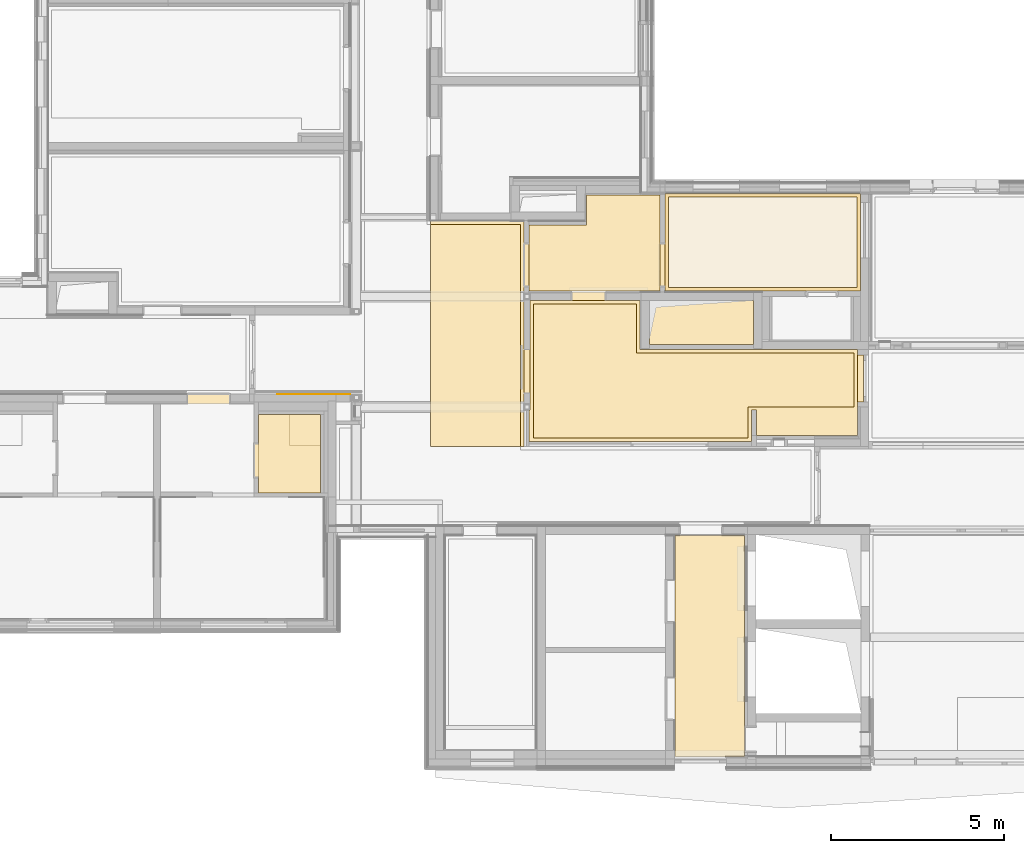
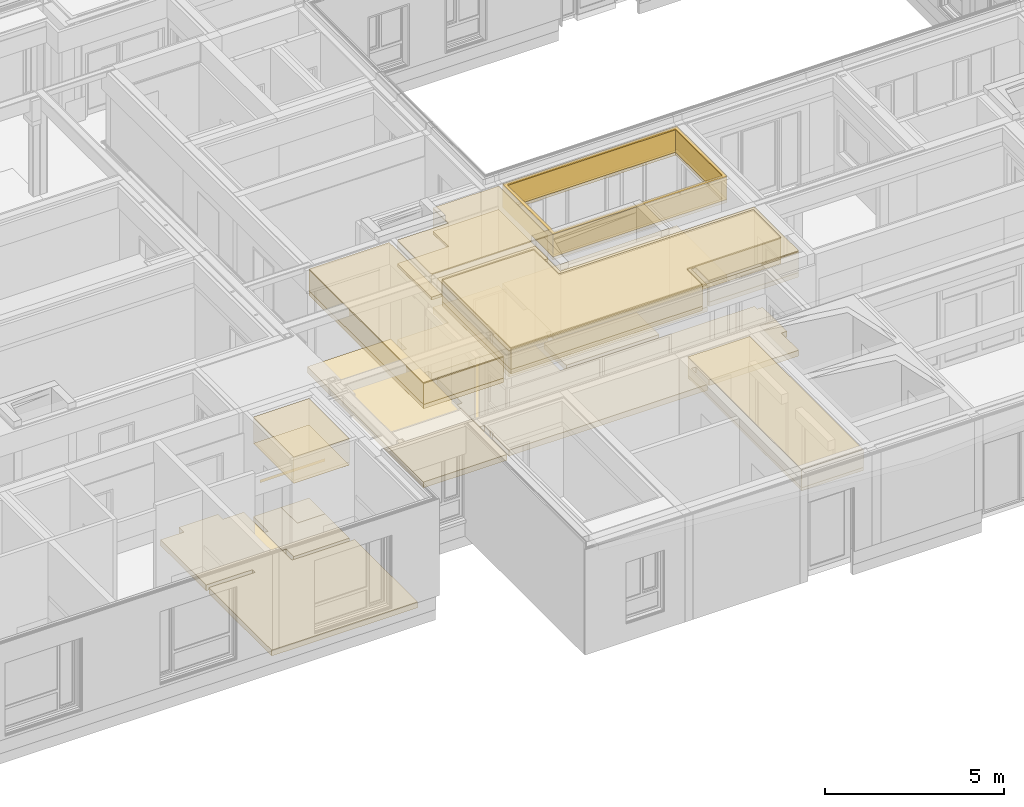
# One storey, part 166 of 207: 35 coverings.
"""IFC4 building model written with IfcOpenShell, lengths in metres."""

from ifc_helpers import new_model, entity, si_unit, converted_unit, derived_unit, frame, frame_2d, origin, origin_with_axes, place, context, subcontext, project, spatial, polyline, rectangle, outline, extrude, material, layer, layer_set, layer_usage, element, save


model = new_model("IFC4")

# Units and contexts
model_context = context("Model", 3, precision=1e-05, world=origin())
body_context = subcontext(model_context, "Body", "Model", "MODEL_VIEW")
ifc_project = project(units=[si_unit("LENGTHUNIT", "METRE"), si_unit("AREAUNIT", "SQUARE_METRE"), si_unit("VOLUMEUNIT", "CUBIC_METRE"), si_unit("MASSUNIT", "GRAM", prefix="KILO"), converted_unit("PLANEANGLEUNIT", "DEGREE", entity("IfcPlaneAngleMeasure", 0.0174532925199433), si_unit("PLANEANGLEUNIT", "RADIAN"), dimensions=[0, 0, 0, 0, 0, 0, 0]), derived_unit("THERMALTRANSMITTANCEUNIT", [(si_unit("POWERUNIT", "WATT"), 1), (si_unit("THERMODYNAMICTEMPERATUREUNIT", "KELVIN"), -1), (si_unit("LENGTHUNIT", "METRE"), -2)]), derived_unit("VOLUMETRICFLOWRATEUNIT", [(si_unit("LENGTHUNIT", "METRE"), 3), (converted_unit("TIMEUNIT", "hour", entity("IfcTimeMeasure", 3600.0), si_unit("TIMEUNIT", "SECOND"), dimensions=[0, 0, 1, 0, 0, 0, 0]), -1), (si_unit("LENGTHUNIT", "METRE"), -1)])], contexts=[model_context])

# Site, building, storey
site_placement = place(None, origin())
site = spatial("IfcSite", under=ifc_project, at=site_placement, Name="Psychiatrie Neubau Wunstorf", CompositionType="ELEMENT")
building_placement = place(site_placement, origin())
building = spatial("IfcBuilding", under=site, at=building_placement, Name="Neubau H2 Stationsgebäude", CompositionType="ELEMENT")
storey_placement = place(building_placement, frame((0.0, 0.0, -0.2)))
storey = spatial("IfcBuildingStorey", under=building, at=storey_placement, Name="H2 Ebene 0", CompositionType="ELEMENT", Elevation=-0.2)

# Covering
ifc_material_1 = material(Name="SE")
ifc_layer_1 = layer(ifc_material_1, 0.19)
ifc_layer_set_1 = layer_set([ifc_layer_1])
ifc_layer_usage_1 = layer_usage(ifc_layer_set_1, "AXIS3", "POSITIVE", 0.0)
covering_1_placement = place(storey_placement, frame((44.2000000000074, 5.76750021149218, 0.0)))
element("IfcCovering", 1, at=covering_1_placement, inside=storey, material=ifc_layer_usage_1, Name="Estrich", PredefinedType="FLOORING", context=body_context, shape_type="SweptSolid", body=[
    extrude(rectangle(XDim=1.25749947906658, YDim=3.0, at=frame_2d((1.5, -0.62874973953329), x_axis=(0.0, -1.0))), frame((0.0, 1.25749947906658, 0.0), z_axis=(0.0, 0.0, 1.0), x_axis=(1.0, 0.0, 0.0)), (0.0, 0.0, 1.0), 0.19),
])

# Space
space_1_placement = place(storey_placement, frame((44.941004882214, -6.1210003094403, 0.0)))
space_1 = spatial("IfcSpace", under=storey, at=space_1_placement, Name="WUN-H2-E00-F02", CompositionType="ELEMENT")

# Coverings
ifc_material_2 = material(Name="Installationshöhe")
ifc_layer_2 = layer(ifc_material_2, 0.614)
ifc_layer_set_2 = layer_set([ifc_layer_2])
ifc_layer_usage_2 = layer_usage(ifc_layer_set_2, "AXIS3", "POSITIVE", 0.0)
covering_2_placement = place(space_1_placement, frame((0.0, 0.0, 3.564)))
element("IfcCovering", 2, at=covering_2_placement, inside=space_1, material=ifc_layer_usage_2, Name="Gipsfaserplatten 2-lagig (BSK)", PredefinedType="CEILING", context=body_context, shape_type="SweptSolid", body=[
    extrude(rectangle(XDim=1.99900000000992, YDim=6.3710003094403, at=frame_2d((-0.999500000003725, -3.18550015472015), x_axis=(-1.0, 0.0))), frame((1.99900000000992, 0.0, 0.0), z_axis=(0.0, 0.0, -1.0), x_axis=(1.0, 0.0, 0.0)), (0.0, 0.0, 1.0), 0.614),
])
ifc_material_3 = material(Name="A1")
ifc_layer_3 = layer(ifc_material_3, 0.1)
ifc_layer_set_3 = layer_set([ifc_layer_3])
ifc_layer_usage_3 = layer_usage(ifc_layer_set_3, "AXIS3", "POSITIVE", 0.0)
covering_3_placement = place(space_1_placement, frame((0.0, 0.0, 2.95)))
element("IfcCovering", 3, at=covering_3_placement, inside=space_1, material=ifc_layer_usage_3, Name="Gipsfaserplatten 2-lagig (BSK)", PredefinedType="CEILING", context=body_context, shape_type="SweptSolid", body=[
    extrude(rectangle(XDim=1.99900000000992, YDim=6.3710003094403, at=frame_2d((-0.999500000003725, -3.18550015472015), x_axis=(-1.0, 0.0))), frame((1.99900000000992, 0.0, 0.0), z_axis=(0.0, 0.0, -1.0), x_axis=(1.0, 0.0, 0.0)), (0.0, 0.0, 1.0), 0.1),
])
ifc_material_4 = material(Name="D1")
ifc_layer_4 = layer(ifc_material_4, 0.001)
ifc_layer_set_4 = layer_set([ifc_layer_4])
ifc_layer_usage_4 = layer_usage(ifc_layer_set_4, "AXIS3", "POSITIVE", 0.0)
covering_4_placement = place(space_1_placement, frame((0.0, 0.0, 2.85)))
element("IfcCovering", 4, at=covering_4_placement, inside=space_1, material=ifc_layer_usage_4, Name="Gipsfaserplatten 2-lagig (BSK)", PredefinedType="CEILING", context=body_context, shape_type="SweptSolid", body=[
    extrude(rectangle(XDim=1.99900000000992, YDim=6.3710003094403, at=frame_2d((-0.999500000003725, -3.18550015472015), x_axis=(-1.0, 0.0))), frame((1.99900000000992, 0.0, 0.0), z_axis=(0.0, 0.0, -1.0), x_axis=(1.0, 0.0, 0.0)), (0.0, 0.0, 1.0), 0.001),
])

# Space
space_2_placement = place(storey_placement, frame((32.083, 0.549, 0.0)))
space_2 = spatial("IfcSpace", under=storey, at=space_2_placement, Name="WUN-H2-E00-F03", CompositionType="ELEMENT")

# Covering
ifc_material_5 = material(Name="97")
ifc_layer_5 = layer(ifc_material_5, 0.001)
ifc_layer_set_5 = layer_set([ifc_layer_5])
ifc_layer_usage_5 = layer_usage(ifc_layer_set_5, "AXIS3", "POSITIVE", 0.0)
covering_5_placement = place(space_2_placement, frame((1.38699999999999, 3.78174963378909, 0.8)))
element("IfcCovering", 5, at=covering_5_placement, inside=space_2, material=ifc_layer_usage_5, Name="Handlauf", PredefinedType="CLADDING", context=body_context, shape_type="SweptSolid", body=[
    extrude(rectangle(XDim=2.1, YDim=0.1, at=frame_2d((-1.05, 0.05), x_axis=(-1.0, 0.0))), frame((2.1, 0.0, 0.1), z_axis=(4.33092715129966e-15, 1.0, 0.0), x_axis=(1.0, -4.33092715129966e-15, 0.0)), (0.0, 0.0, 1.0), 0.001),
])

# Space
space_3_placement = place(storey_placement, frame((32.9175, 1.48374963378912, 0.0)))
space_3 = spatial("IfcSpace", under=storey, at=space_3_placement, Name="WUN-H2-E00-019a", CompositionType="ELEMENT")

# Coverings
ifc_material_6 = material(Name="Fl1")
ifc_layer_6 = layer(ifc_material_6, 0.2)
ifc_layer_set_6 = layer_set([ifc_layer_6])
ifc_layer_usage_6 = layer_usage(ifc_layer_set_6, "AXIS3", "POSITIVE", 0.0)
covering_6_placement = place(space_3_placement, frame((-0.125, 0.0, 0.0)))
element("IfcCovering", 6, at=covering_6_placement, inside=space_3, material=ifc_layer_usage_6, Name="Fliesen", PredefinedType="FLOORING", context=body_context, shape_type="SweptSolid", body=[
    extrude(rectangle(XDim=0.125, YDim=1.01, at=frame_2d((0.0625, 0.505), x_axis=(1.0, 0.0))), frame((0.0, 0.42499999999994, 0.0), z_axis=(0.0, 0.0, 1.0), x_axis=(1.0, 0.0, 0.0)), (0.0, 0.0, 1.0), 0.2),
    extrude(outline(polyline([(1.8, 0.0), (1.79999999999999, 1.36499999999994), (0.9, 1.36499999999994), (0.900000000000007, 2.26499999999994), (0.0, 2.26499999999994), (0.0, 0.0), (1.8, 0.0)])), frame((0.125, 0.0, 0.0), z_axis=(0.0, 0.0, 1.0), x_axis=(1.0, 0.0, 0.0)), (0.0, 0.0, 1.0), 0.2),
])
ifc_material_7 = material(Name="Fl2")
ifc_layer_7 = layer(ifc_material_7, 0.2)
ifc_layer_set_7 = layer_set([ifc_layer_7])
ifc_layer_usage_7 = layer_usage(ifc_layer_set_7, "AXIS3", "POSITIVE", 0.0)
covering_7_placement = place(space_3_placement, frame((0.9, 1.36499999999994, 0.0)))
element("IfcCovering", 7, at=covering_7_placement, inside=space_3, material=ifc_layer_usage_7, Name="Fliesen Mosaik", PredefinedType="FLOORING", context=body_context, shape_type="SweptSolid", body=[
    extrude(rectangle(XDim=0.899999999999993, YDim=0.9, at=frame_2d((0.45, 0.45), x_axis=(1.0, 0.0))), origin_with_axes(), (0.0, 0.0, 1.0), 0.2),
])
ifc_material_8 = material()
ifc_layer_8 = layer(ifc_material_8, 0.036)
ifc_layer_set_8 = layer_set([ifc_layer_8])
ifc_layer_usage_8 = layer_usage(ifc_layer_set_8, "AXIS3", "POSITIVE", 0.0)
covering_8_placement = place(space_3_placement, frame((0.0, 0.0, 3.6)))
element("IfcCovering", 8, at=covering_8_placement, inside=space_3, material=ifc_layer_usage_8, Name="Gipsfaserplatten 2-lagig (BSK)", PredefinedType="CEILING", context=body_context, shape_type="SweptSolid", body=[
    extrude(rectangle(XDim=1.8, YDim=2.26499999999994, at=frame_2d((0.9, 1.13249999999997), x_axis=(1.0, 0.0))), frame((0.0, 2.26499999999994, 0.0), z_axis=(0.0, 0.0, -1.0), x_axis=(1.0, 0.0, 0.0)), (0.0, 0.0, 1.0), 0.036),
])
ifc_material_9 = material(Name="Installationshöhe")
ifc_layer_9 = layer(ifc_material_9, 0.764)
ifc_layer_set_9 = layer_set([ifc_layer_9])
ifc_layer_usage_9 = layer_usage(ifc_layer_set_9, "AXIS3", "POSITIVE", 0.0)
covering_9_placement = place(space_3_placement, frame((0.0, 0.0, 3.564)))
element("IfcCovering", 9, at=covering_9_placement, inside=space_3, material=ifc_layer_usage_9, Name="Gipsfaserplatten 2-lagig (BSK)", PredefinedType="CEILING", context=body_context, shape_type="SweptSolid", body=[
    extrude(rectangle(XDim=1.8, YDim=2.26499999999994, at=frame_2d((0.9, 1.13249999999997), x_axis=(1.0, 0.0))), frame((0.0, 2.26499999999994, 0.0), z_axis=(0.0, 0.0, -1.0), x_axis=(1.0, 0.0, 0.0)), (0.0, 0.0, 1.0), 0.764),
])
ifc_material_10 = material(Name="B")
ifc_layer_10 = layer(ifc_material_10, 0.1)
ifc_layer_set_10 = layer_set([ifc_layer_10])
ifc_layer_usage_10 = layer_usage(ifc_layer_set_10, "AXIS3", "POSITIVE", 0.0)
covering_10_placement = place(space_3_placement, frame((0.0, 0.0, 2.8)))
element("IfcCovering", 10, at=covering_10_placement, inside=space_3, material=ifc_layer_usage_10, Name="Gipskarton, imprägniert", PredefinedType="CEILING", context=body_context, shape_type="SweptSolid", body=[
    extrude(rectangle(XDim=1.8, YDim=2.26499999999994, at=frame_2d((0.9, 1.13249999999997), x_axis=(1.0, 0.0))), frame((0.0, 2.26499999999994, 0.0), z_axis=(0.0, 0.0, -1.0), x_axis=(1.0, 0.0, 0.0)), (0.0, 0.0, 1.0), 0.1),
])
ifc_material_11 = material(Name="D1")
ifc_layer_11 = layer(ifc_material_11, 0.001)
ifc_layer_set_11 = layer_set([ifc_layer_11])
ifc_layer_usage_11 = layer_usage(ifc_layer_set_11, "AXIS3", "POSITIVE", 0.0)
covering_11_placement = place(space_3_placement, frame((0.0, 0.0, 2.7)))
element("IfcCovering", 11, at=covering_11_placement, inside=space_3, material=ifc_layer_usage_11, Name="Gipsfaserplatten 2-lagig (BSK)", PredefinedType="CEILING", context=body_context, shape_type="SweptSolid", body=[
    extrude(rectangle(XDim=1.8, YDim=2.26499999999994, at=frame_2d((0.9, 1.13249999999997), x_axis=(1.0, 0.0))), frame((0.0, 2.26499999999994, 0.0), z_axis=(0.0, 0.0, -1.0), x_axis=(1.0, 0.0, 0.0)), (0.0, 0.0, 1.0), 0.001),
])

# Space
space_4_placement = place(storey_placement, frame((37.8825, 2.81749969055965, 0.0)))
space_4 = spatial("IfcSpace", under=storey, at=space_4_placement, Name="WUN-H2-E00-F03b", CompositionType="ELEMENT")

# Coverings
ifc_material_12 = material(Name="Ku1")
ifc_layer_12 = layer(ifc_material_12, 0.2)
ifc_layer_set_12 = layer_set([ifc_layer_12])
ifc_layer_usage_12 = layer_usage(ifc_layer_set_12, "AXIS3", "POSITIVE", 0.0)
covering_12_placement = place(space_4_placement, origin())
element("IfcCovering", 12, at=covering_12_placement, inside=space_4, material=ifc_layer_usage_12, Name="PVC Bahnenware Holzoptik", PredefinedType="FLOORING", context=body_context, shape_type="SweptSolid", body=[
    extrude(outline(polyline([(2.69243497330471, 1.27116461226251e-06), (2.69243497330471, 6.50499655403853), (2.317451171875, 6.50499655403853), (2.317451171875, 6.50649655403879), (0.0, 6.50649655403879), (0.0, 0.0), (2.69243497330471, 1.27116461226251e-06)])), origin_with_axes(), (0.0, 0.0, 1.0), 0.2),
])
ifc_material_13 = material()
ifc_layer_13 = layer(ifc_material_13, 0.036)
ifc_layer_set_13 = layer_set([ifc_layer_13])
ifc_layer_usage_13 = layer_usage(ifc_layer_set_13, "AXIS3", "POSITIVE", 0.0)
covering_13_placement = place(space_4_placement, frame((0.0, 0.0, 3.6)))
element("IfcCovering", 13, at=covering_13_placement, inside=space_4, material=ifc_layer_usage_13, Name="Gipsfaserplatten 2-lagig (BSK)", PredefinedType="CEILING", context=body_context, shape_type="SweptSolid", body=[
    extrude(outline(polyline([(2.59243497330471, 0.00150000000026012), (2.59243497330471, 6.40649528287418), (0.0, 6.4064965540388), (0.0, 0.0), (2.59243497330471, 0.00150000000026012)])), frame((0.0, 6.4064965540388, 0.0), z_axis=(0.0, 0.0, -1.0), x_axis=(1.0, 0.0, 0.0)), (0.0, 0.0, 1.0), 0.036),
])
ifc_material_14 = material(Name="Installationshöhe")
ifc_layer_14 = layer(ifc_material_14, 0.714)
ifc_layer_set_14 = layer_set([ifc_layer_14])
ifc_layer_usage_14 = layer_usage(ifc_layer_set_14, "AXIS3", "POSITIVE", 0.0)
covering_14_placement = place(space_4_placement, frame((0.0, 0.0, 3.564)))
element("IfcCovering", 14, at=covering_14_placement, inside=space_4, material=ifc_layer_usage_14, Name="Gipsfaserplatten 2-lagig (BSK)", PredefinedType="CEILING", context=body_context, shape_type="SweptSolid", body=[
    extrude(outline(polyline([(2.59243497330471, 0.00150000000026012), (2.59243497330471, 6.40649528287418), (0.0, 6.4064965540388), (0.0, 0.0), (2.59243497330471, 0.00150000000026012)])), frame((0.0, 6.4064965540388, 0.0), z_axis=(0.0, 0.0, -1.0), x_axis=(1.0, 0.0, 0.0)), (0.0, 0.0, 1.0), 0.714),
])
ifc_material_15 = material(Name="Aa")
ifc_layer_15 = layer(ifc_material_15, 0.15)
ifc_layer_set_15 = layer_set([ifc_layer_15])
ifc_layer_usage_15 = layer_usage(ifc_layer_set_15, "AXIS3", "POSITIVE", 0.0)
covering_15_placement = place(space_4_placement, frame((0.0, 0.0, 2.85)))
element("IfcCovering", 15, at=covering_15_placement, inside=space_4, material=ifc_layer_usage_15, Name="Gipsfaserplatten 2-lagig (BSK)", PredefinedType="CEILING", context=body_context, shape_type="SweptSolid", body=[
    extrude(outline(polyline([(2.59243497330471, 0.00150000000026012), (2.59243497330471, 6.40649528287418), (0.0, 6.4064965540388), (0.0, 0.0), (2.59243497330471, 0.00150000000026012)])), frame((0.0, 6.4064965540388, 0.0), z_axis=(0.0, 0.0, -1.0), x_axis=(1.0, 0.0, 0.0)), (0.0, 0.0, 1.0), 0.15),
])
ifc_material_16 = material(Name="D1")
ifc_layer_16 = layer(ifc_material_16, 0.001)
ifc_layer_set_16 = layer_set([ifc_layer_16])
ifc_layer_usage_16 = layer_usage(ifc_layer_set_16, "AXIS3", "POSITIVE", 0.0)
covering_16_placement = place(space_4_placement, frame((0.0, 0.0, 2.7)))
element("IfcCovering", 16, at=covering_16_placement, inside=space_4, material=ifc_layer_usage_16, Name="Gipsfaserplatten 2-lagig (BSK)", PredefinedType="CEILING", context=body_context, shape_type="SweptSolid", body=[
    extrude(outline(polyline([(2.59243497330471, 0.00150000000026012), (2.59243497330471, 6.40649528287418), (0.0, 6.4064965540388), (0.0, 0.0), (2.59243497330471, 0.00150000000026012)])), frame((0.0, 6.4064965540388, 0.0), z_axis=(0.0, 0.0, -1.0), x_axis=(1.0, 0.0, 0.0)), (0.0, 0.0, 1.0), 0.001),
])

# Space
space_5_placement = place(storey_placement, frame((40.7249975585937, 7.29999969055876, 0.0)))
space_5 = spatial("IfcSpace", under=storey, at=space_5_placement, Name="WUN-H2-E00-012", CompositionType="ELEMENT")

# Coverings
ifc_material_17 = material(Name="Ku1")
ifc_layer_17 = layer(ifc_material_17, 0.2)
ifc_layer_set_17 = layer_set([ifc_layer_17])
ifc_layer_usage_17 = layer_usage(ifc_layer_set_17, "AXIS3", "POSITIVE", 0.0)
covering_17_placement = place(space_5_placement, frame((-0.150000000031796, 0.0, 0.0)))
element("IfcCovering", 17, at=covering_17_placement, inside=space_5, material=ifc_layer_usage_17, Name="PVC Bahnenware Holzoptik", PredefinedType="FLOORING", context=body_context, shape_type="SweptSolid", body=[
    extrude(rectangle(XDim=0.15, YDim=1.26, at=frame_2d((0.075, 0.63), x_axis=(1.0, 0.0))), frame((3.92500244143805, 0.125, 0.0), z_axis=(0.0, 0.0, 1.0), x_axis=(1.0, 0.0, 0.0)), (0.0, 0.0, 1.0), 0.2),
    extrude(rectangle(XDim=0.15, YDim=1.26, at=frame_2d((0.0749999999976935, 0.630000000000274), x_axis=(1.0, 3.66223199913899e-12))), frame((0.0, 0.125000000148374, 0.0), z_axis=(0.0, 0.0, 1.0), x_axis=(1.0, 0.0, 0.0)), (0.0, 0.0, 1.0), 0.2),
    extrude(outline(polyline([(1.65495325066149, 1.90999655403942), (0.0, 1.90999655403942), (0.0, 0.0), (3.77500244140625, 0.0), (3.77500244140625, 2.77400012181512), (1.65495325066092, 2.77400012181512), (1.65495325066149, 1.90999655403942)])), frame((0.150000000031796, 0.0, 0.0), z_axis=(0.0, 0.0, 1.0), x_axis=(1.0, 0.0, 0.0)), (0.0, 0.0, 1.0), 0.2),
])
ifc_material_18 = material()
ifc_layer_18 = layer(ifc_material_18, 0.036)
ifc_layer_set_18 = layer_set([ifc_layer_18])
ifc_layer_usage_18 = layer_usage(ifc_layer_set_18, "AXIS3", "POSITIVE", 0.0)
covering_18_placement = place(space_5_placement, frame((0.0, 0.0, 3.6)))
element("IfcCovering", 18, at=covering_18_placement, inside=space_5, material=ifc_layer_usage_18, Name="Gipsfaserplatten 2-lagig (BSK)", PredefinedType="CEILING", context=body_context, shape_type="SweptSolid", body=[
    extrude(outline(polyline([(0.0, 0.864003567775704), (1.65495325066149, 0.864003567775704), (1.65495325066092, 0.0), (3.77500244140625, 0.0), (3.77500244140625, 2.77400012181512), (0.0, 2.77400012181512), (0.0, 0.864003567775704)])), frame((0.0, 2.77400012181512, 0.0), z_axis=(0.0, 0.0, -1.0), x_axis=(1.0, 0.0, 0.0)), (0.0, 0.0, 1.0), 0.036),
])
ifc_material_19 = material(Name="Installationshöhe")
ifc_layer_19 = layer(ifc_material_19, 0.764)
ifc_layer_set_19 = layer_set([ifc_layer_19])
ifc_layer_usage_19 = layer_usage(ifc_layer_set_19, "AXIS3", "POSITIVE", 0.0)
covering_19_placement = place(space_5_placement, frame((0.0, 0.0, 3.564)))
element("IfcCovering", 19, at=covering_19_placement, inside=space_5, material=ifc_layer_usage_19, Name="Gipsfaserplatten 2-lagig (BSK)", PredefinedType="CEILING", context=body_context, shape_type="SweptSolid", body=[
    extrude(outline(polyline([(0.0, 0.864003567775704), (1.65495325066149, 0.864003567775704), (1.65495325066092, 0.0), (3.77500244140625, 0.0), (3.77500244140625, 2.77400012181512), (0.0, 2.77400012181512), (0.0, 0.864003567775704)])), frame((0.0, 2.77400012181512, 0.0), z_axis=(0.0, 0.0, -1.0), x_axis=(1.0, 0.0, 0.0)), (0.0, 0.0, 1.0), 0.764),
])
ifc_material_20 = material(Name="A1")
ifc_layer_20 = layer(ifc_material_20, 0.1)
ifc_layer_set_20 = layer_set([ifc_layer_20])
ifc_layer_usage_20 = layer_usage(ifc_layer_set_20, "AXIS3", "POSITIVE", 0.0)
covering_20_placement = place(space_5_placement, frame((0.0, 0.0, 2.8)))
element("IfcCovering", 20, at=covering_20_placement, inside=space_5, material=ifc_layer_usage_20, Name="Gipsfaserplatten 2-lagig (BSK)", PredefinedType="CEILING", context=body_context, shape_type="SweptSolid", body=[
    extrude(outline(polyline([(0.0, 0.864003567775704), (1.65495325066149, 0.864003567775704), (1.65495325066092, 0.0), (3.77500244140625, 0.0), (3.77500244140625, 2.77400012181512), (0.0, 2.77400012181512), (0.0, 0.864003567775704)])), frame((0.0, 2.77400012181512, 0.0), z_axis=(0.0, 0.0, -1.0), x_axis=(1.0, 0.0, 0.0)), (0.0, 0.0, 1.0), 0.1),
])
ifc_material_21 = material(Name="D1")
ifc_layer_21 = layer(ifc_material_21, 0.001)
ifc_layer_set_21 = layer_set([ifc_layer_21])
ifc_layer_usage_21 = layer_usage(ifc_layer_set_21, "AXIS3", "POSITIVE", 0.0)
covering_21_placement = place(space_5_placement, frame((0.0, 0.0, 2.7)))
element("IfcCovering", 21, at=covering_21_placement, inside=space_5, material=ifc_layer_usage_21, Name="Gipsfaserplatten 2-lagig (BSK)", PredefinedType="CEILING", context=body_context, shape_type="SweptSolid", body=[
    extrude(outline(polyline([(0.0, 0.864003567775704), (1.65495325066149, 0.864003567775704), (1.65495325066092, 0.0), (3.77500244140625, 0.0), (3.77500244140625, 2.77400012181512), (0.0, 2.77400012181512), (0.0, 0.864003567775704)])), frame((0.0, 2.77400012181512, 0.0), z_axis=(0.0, 0.0, -1.0), x_axis=(1.0, 0.0, 0.0)), (0.0, 0.0, 1.0), 0.001),
])

# Space
space_6_placement = place(storey_placement, frame((40.7249425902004, 2.96733420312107, 0.0)))
space_6 = spatial("IfcSpace", under=storey, at=space_6_placement, Name="WUN-H2-E00-013", CompositionType="ELEMENT")

# Coverings
ifc_material_22 = material(Name="Ku1")
ifc_layer_22 = layer(ifc_material_22, 0.2)
ifc_layer_set_22 = layer_set([ifc_layer_22])
ifc_layer_usage_22 = layer_usage(ifc_layer_set_22, "AXIS3", "POSITIVE", 0.0)
covering_22_placement = place(space_6_placement, frame((-0.149929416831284, 0.0, 0.0)))
element("IfcCovering", 22, at=covering_22_placement, inside=space_6, material=ifc_layer_usage_22, Name="PVC Bahnenware Holzoptik", PredefinedType="FLOORING", context=body_context, shape_type="SweptSolid", body=[
    extrude(rectangle(XDim=0.272, YDim=1.01, at=frame_2d((-0.505, 0.136), x_axis=(0.0, 1.0))), frame((2.37498682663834, 4.06066548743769, 0.0), z_axis=(0.0, 0.0, 1.0), x_axis=(1.0, 0.0, 0.0)), (0.0, 0.0, 1.0), 0.2),
    extrude(rectangle(XDim=0.174500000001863, YDim=1.35500120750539, at=frame_2d((0.0872500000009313, 0.677500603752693), x_axis=(1.0, 0.0))), frame((9.62098682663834, 1.1401660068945, 0.0), z_axis=(0.0, 0.0, 1.0), x_axis=(1.0, 0.0, 0.0)), (0.0, 0.0, 1.0), 0.2),
    extrude(rectangle(XDim=0.175000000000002, YDim=1.26, at=frame_2d((0.0875319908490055, 0.629995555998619), x_axis=(0.999999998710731, -5.07793044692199e-05))), frame((0.0, 1.39016548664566, 0.0), z_axis=(0.0, 0.0, 1.0), x_axis=(1.0, 0.0, 0.0)), (0.0, 0.0, 1.0), 0.2),
    extrude(outline(polyline([(3.1950577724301, 4.06066548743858), (0.0252061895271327, 4.06066548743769), (0.025054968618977, 1.08266274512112), (0.0300549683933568, 1.08266274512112), (0.0300549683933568, 0.902662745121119), (0.0, 0.90265512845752), (1.26961146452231e-06, 0.0), (6.41796936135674, 0.0), (6.41796936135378, 0.9), (6.56796936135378, 0.9), (6.56796936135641, 0.175165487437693), (9.47105740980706, 0.175165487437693), (9.47105740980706, 2.65016600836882), (3.1950577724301, 2.6501660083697), (3.1950577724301, 4.06066548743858)])), frame((0.149929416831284, 0.0, 0.0), z_axis=(0.0, 0.0, 1.0), x_axis=(1.0, 0.0, 0.0)), (0.0, 0.0, 1.0), 0.2),
])
ifc_material_23 = material()
ifc_layer_23 = layer(ifc_material_23, 0.036)
ifc_layer_set_23 = layer_set([ifc_layer_23])
ifc_layer_usage_23 = layer_usage(ifc_layer_set_23, "AXIS3", "POSITIVE", 0.0)
covering_23_placement = place(space_6_placement, frame((0.0, 0.0, 3.6)))
element("IfcCovering", 23, at=covering_23_placement, inside=space_6, material=ifc_layer_usage_23, Name="Gipsfaserplatten 2-lagig (BSK)", PredefinedType="CEILING", context=body_context, shape_type="SweptSolid", body=[
    extrude(outline(polyline([(9.47105740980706, 1.41049947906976), (9.47105740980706, 3.88550000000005), (6.56796936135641, 3.88550000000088), (6.56796936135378, 3.16066548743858), (6.41796936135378, 3.16066548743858), (6.41796936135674, 4.06066548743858), (1.26961146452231e-06, 4.06066548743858), (0.0, 3.15801035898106), (0.0300549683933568, 3.15800274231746), (0.0300549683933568, 2.97800274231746), (0.0250549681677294, 2.97801162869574), (0.0252061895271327, 0.0), (3.1950577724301, 0.0), (3.1950577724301, 1.41049947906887), (9.47105740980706, 1.41049947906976)])), frame((0.0, 4.06066548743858, 0.0), z_axis=(0.0, 0.0, -1.0), x_axis=(1.0, 0.0, 0.0)), (0.0, 0.0, 1.0), 0.036),
])
ifc_material_24 = material(Name="Installationshöhe")
ifc_layer_24 = layer(ifc_material_24, 0.714)
ifc_layer_set_24 = layer_set([ifc_layer_24])
ifc_layer_usage_24 = layer_usage(ifc_layer_set_24, "AXIS3", "POSITIVE", 0.0)
covering_24_placement = place(space_6_placement, frame((0.0, 0.0, 3.564)))
element("IfcCovering", 24, at=covering_24_placement, inside=space_6, material=ifc_layer_usage_24, Name="Gipsfaserplatten 2-lagig (BSK)", PredefinedType="CEILING", context=body_context, shape_type="SweptSolid", body=[
    extrude(outline(polyline([(9.47105740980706, 1.41049947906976), (9.47105740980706, 3.88550000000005), (6.56796936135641, 3.88550000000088), (6.56796936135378, 3.16066548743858), (6.41796936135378, 3.16066548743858), (6.41796936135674, 4.06066548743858), (1.26961146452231e-06, 4.06066548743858), (0.0, 3.15801035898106), (0.0300549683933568, 3.15800274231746), (0.0300549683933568, 2.97800274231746), (0.0250549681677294, 2.97801162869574), (0.0252061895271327, 0.0), (3.1950577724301, 0.0), (3.1950577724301, 1.41049947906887), (9.47105740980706, 1.41049947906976)])), frame((0.0, 4.06066548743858, 0.0), z_axis=(0.0, 0.0, -1.0), x_axis=(1.0, 0.0, 0.0)), (0.0, 0.0, 1.0), 0.714),
])
ifc_material_25 = material(Name="A1")
ifc_layer_25 = layer(ifc_material_25, 0.15)
ifc_layer_set_25 = layer_set([ifc_layer_25])
ifc_layer_usage_25 = layer_usage(ifc_layer_set_25, "AXIS3", "POSITIVE", 0.0)
covering_25_placement = place(space_6_placement, frame((0.0, 0.0, 2.85)))
element("IfcCovering", 25, at=covering_25_placement, inside=space_6, material=ifc_layer_usage_25, Name="Gipsfaserplatten 2-lagig (BSK)", PredefinedType="CEILING", context=body_context, shape_type="SweptSolid", body=[
    extrude(outline(polyline([(9.47105740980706, 1.41049947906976), (9.47105740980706, 3.88550000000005), (6.56796936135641, 3.88550000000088), (6.56796936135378, 3.16066548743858), (6.41796936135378, 3.16066548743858), (6.41796936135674, 4.06066548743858), (1.26961146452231e-06, 4.06066548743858), (0.0, 3.15801035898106), (0.0300549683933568, 3.15800274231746), (0.0300549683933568, 2.97800274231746), (0.0250549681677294, 2.97801162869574), (0.0252061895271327, 0.0), (3.1950577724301, 0.0), (3.1950577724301, 1.41049947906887), (9.47105740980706, 1.41049947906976)])), frame((0.0, 4.06066548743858, 0.0), z_axis=(0.0, 0.0, -1.0), x_axis=(1.0, 0.0, 0.0)), (0.0, 0.0, 1.0), 0.15),
])
ifc_material_26 = material(Name="D1")
ifc_layer_26 = layer(ifc_material_26, 0.001)
ifc_layer_set_26 = layer_set([ifc_layer_26])
ifc_layer_usage_26 = layer_usage(ifc_layer_set_26, "AXIS3", "POSITIVE", 0.0)
covering_26_placement = place(space_6_placement, frame((0.0, 0.0, 2.7)))
element("IfcCovering", 26, at=covering_26_placement, inside=space_6, material=ifc_layer_usage_26, Name="Gipsfaserplatten 2-lagig (BSK)", PredefinedType="CEILING", context=body_context, shape_type="SweptSolid", body=[
    extrude(outline(polyline([(9.47105740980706, 1.41049947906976), (9.47105740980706, 3.88550000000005), (6.56796936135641, 3.88550000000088), (6.56796936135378, 3.16066548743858), (6.41796936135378, 3.16066548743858), (6.41796936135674, 4.06066548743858), (1.26961146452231e-06, 4.06066548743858), (0.0, 3.15801035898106), (0.0300549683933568, 3.15800274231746), (0.0300549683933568, 2.97800274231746), (0.0250549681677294, 2.97801162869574), (0.0252061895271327, 0.0), (3.1950577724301, 0.0), (3.1950577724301, 1.41049947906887), (9.47105740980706, 1.41049947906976)])), frame((0.0, 4.06066548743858, 0.0), z_axis=(0.0, 0.0, -1.0), x_axis=(1.0, 0.0, 0.0)), (0.0, 0.0, 1.0), 0.001),
])
ifc_material_27 = material()
ifc_layer_27 = layer(ifc_material_27, 0.036)
ifc_layer_set_27 = layer_set([ifc_layer_27])
ifc_layer_usage_27 = layer_usage(ifc_layer_set_27, "AXIS3", "POSITIVE", 0.0)
covering_27_placement = place(space_6_placement, frame((0.125206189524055, 0.09999999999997, 3.6)))
element("IfcCovering", 27, at=covering_27_placement, inside=space_6, material=ifc_layer_usage_27, Name="Gipsfaserplatten 2-lagig (BSK)", PredefinedType="CEILING", context=body_context, shape_type="SweptSolid", body=[
    extrude(outline(polyline([(9.24585122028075, 2.97300000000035), (6.19276317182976, 2.97300000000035), (6.19276317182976, 3.86316548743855), (0.0, 3.86316548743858), (0.0, 0.0), (2.96985158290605, 0.0), (2.96985158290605, 1.41299947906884), (9.24585122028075, 1.41299947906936), (9.24585122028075, 2.97300000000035)])), frame((0.0, 3.86316548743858, 0.0), z_axis=(0.0, 0.0, -1.0), x_axis=(1.0, 0.0, 0.0)), (0.0, 0.0, 1.0), 0.036),
])
ifc_material_28 = material(Name="Installationshöhe")
ifc_layer_28 = layer(ifc_material_28, 0.714)
ifc_layer_set_28 = layer_set([ifc_layer_28])
ifc_layer_usage_28 = layer_usage(ifc_layer_set_28, "AXIS3", "POSITIVE", 0.0)
covering_28_placement = place(space_6_placement, frame((0.125206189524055, 0.09999999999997, 3.564)))
element("IfcCovering", 28, at=covering_28_placement, inside=space_6, material=ifc_layer_usage_28, Name="Gipsfaserplatten 2-lagig (BSK)", PredefinedType="CEILING", context=body_context, shape_type="SweptSolid", body=[
    extrude(outline(polyline([(9.24585122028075, 2.97300000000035), (6.19276317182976, 2.97300000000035), (6.19276317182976, 3.86316548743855), (0.0, 3.86316548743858), (0.0, 0.0), (2.96985158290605, 0.0), (2.96985158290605, 1.41299947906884), (9.24585122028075, 1.41299947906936), (9.24585122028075, 2.97300000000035)])), frame((0.0, 3.86316548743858, 0.0), z_axis=(0.0, 0.0, -1.0), x_axis=(1.0, 0.0, 0.0)), (0.0, 0.0, 1.0), 0.714),
])
ifc_material_29 = material(Name="Aa")
ifc_layer_29 = layer(ifc_material_29, 0.15)
ifc_layer_set_29 = layer_set([ifc_layer_29])
ifc_layer_usage_29 = layer_usage(ifc_layer_set_29, "AXIS3", "POSITIVE", 0.0)
covering_29_placement = place(space_6_placement, frame((0.125206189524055, 0.09999999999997, 2.85)))
element("IfcCovering", 29, at=covering_29_placement, inside=space_6, material=ifc_layer_usage_29, Name="Gipsfaserplatten 2-lagig (BSK)", PredefinedType="CEILING", context=body_context, shape_type="SweptSolid", body=[
    extrude(outline(polyline([(9.24585122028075, 2.97300000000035), (6.19276317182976, 2.97300000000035), (6.19276317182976, 3.86316548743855), (0.0, 3.86316548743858), (0.0, 0.0), (2.96985158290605, 0.0), (2.96985158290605, 1.41299947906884), (9.24585122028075, 1.41299947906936), (9.24585122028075, 2.97300000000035)])), frame((0.0, 3.86316548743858, 0.0), z_axis=(0.0, 0.0, -1.0), x_axis=(1.0, 0.0, 0.0)), (0.0, 0.0, 1.0), 0.15),
])
ifc_material_30 = material(Name="D1")
ifc_layer_30 = layer(ifc_material_30, 0.001)
ifc_layer_set_30 = layer_set([ifc_layer_30])
ifc_layer_usage_30 = layer_usage(ifc_layer_set_30, "AXIS3", "POSITIVE", 0.0)
covering_30_placement = place(space_6_placement, frame((0.125206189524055, 0.09999999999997, 2.7)))
element("IfcCovering", 30, at=covering_30_placement, inside=space_6, material=ifc_layer_usage_30, Name="Gipsfaserplatten 2-lagig (BSK)", PredefinedType="CEILING", context=body_context, shape_type="SweptSolid", body=[
    extrude(outline(polyline([(9.24585122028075, 2.97300000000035), (6.19276317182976, 2.97300000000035), (6.19276317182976, 3.86316548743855), (0.0, 3.86316548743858), (0.0, 0.0), (2.96985158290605, 0.0), (2.96985158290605, 1.41299947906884), (9.24585122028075, 1.41299947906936), (9.24585122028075, 2.97300000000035)])), frame((0.0, 3.86316548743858, 0.0), z_axis=(0.0, 0.0, -1.0), x_axis=(1.0, 0.0, 0.0)), (0.0, 0.0, 1.0), 0.001),
])

# Space
space_7_placement = place(storey_placement, frame((44.65, 7.29999969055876, 0.0)))
space_7 = spatial("IfcSpace", under=storey, at=space_7_placement, Name="WUN-H2-E00-012a", CompositionType="ELEMENT")

# Coverings
ifc_material_31 = material(Name="Ku1")
ifc_layer_31 = layer(ifc_material_31, 0.2)
ifc_layer_set_31 = layer_set([ifc_layer_31])
ifc_layer_usage_31 = layer_usage(ifc_layer_set_31, "AXIS3", "POSITIVE", 0.0)
covering_31_placement = place(space_7_placement, origin())
element("IfcCovering", 31, at=covering_31_placement, inside=space_7, material=ifc_layer_usage_31, Name="PVC Bahnenware Holzoptik", PredefinedType="FLOORING", context=body_context, shape_type="SweptSolid", body=[
    extrude(rectangle(XDim=2.81400000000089, YDim=5.63600000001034, at=frame_2d((-2.81800000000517, 1.40700000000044), x_axis=(0.0, 1.0))), frame((5.63600000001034, 0.0, 0.0), z_axis=(0.0, 0.0, 1.0), x_axis=(1.0, 0.0, 0.0)), (0.0, 0.0, 1.0), 0.2),
])
ifc_material_32 = material()
ifc_layer_32 = layer(ifc_material_32, 0.036)
ifc_layer_set_32 = layer_set([ifc_layer_32])
ifc_layer_usage_32 = layer_usage(ifc_layer_set_32, "AXIS3", "POSITIVE", 0.0)
covering_32_placement = place(space_7_placement, frame((0.0, 0.0, 3.6)))
element("IfcCovering", 32, at=covering_32_placement, inside=space_7, material=ifc_layer_usage_32, Name="Gipsfaserplatten 2-lagig (BSK)", PredefinedType="CEILING", context=body_context, shape_type="SweptSolid", body=[
    extrude(outline(polyline([(0.0, 2.81400000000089), (0.0, 0.0), (5.63600000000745, 0.0), (5.63600000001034, 2.81400000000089), (0.0, 2.81400000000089)]), holes=[polyline([(0.1, 2.71400000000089), (5.53600000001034, 2.71400000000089), (5.53600000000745, 0.100000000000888), (0.1, 0.1), (0.1, 2.71400000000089)])]), frame((0.0, 2.81400000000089, 0.0), z_axis=(0.0, 0.0, -1.0), x_axis=(1.0, 0.0, 0.0)), (0.0, 0.0, 1.0), 0.036),
])
ifc_material_33 = material(Name="Installationshöhe")
ifc_layer_33 = layer(ifc_material_33, 0.764)
ifc_layer_set_33 = layer_set([ifc_layer_33])
ifc_layer_usage_33 = layer_usage(ifc_layer_set_33, "AXIS3", "POSITIVE", 0.0)
covering_33_placement = place(space_7_placement, frame((0.0, 0.0, 3.564)))
element("IfcCovering", 33, at=covering_33_placement, inside=space_7, material=ifc_layer_usage_33, Name="Gipsfaserplatten 2-lagig (BSK)", PredefinedType="CEILING", context=body_context, shape_type="SweptSolid", body=[
    extrude(outline(polyline([(0.0, 2.81400000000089), (0.0, 0.0), (5.63600000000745, 0.0), (5.63600000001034, 2.81400000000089), (0.0, 2.81400000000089)]), holes=[polyline([(0.1, 2.71400000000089), (5.53600000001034, 2.71400000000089), (5.53600000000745, 0.100000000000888), (0.1, 0.1), (0.1, 2.71400000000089)])]), frame((0.0, 2.81400000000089, 0.0), z_axis=(0.0, 0.0, -1.0), x_axis=(1.0, 0.0, 0.0)), (0.0, 0.0, 1.0), 0.764),
])
ifc_material_34 = material(Name="H7a")
ifc_layer_34 = layer(ifc_material_34, 0.1)
ifc_layer_set_34 = layer_set([ifc_layer_34])
ifc_layer_usage_34 = layer_usage(ifc_layer_set_34, "AXIS3", "POSITIVE", 0.0)
covering_34_placement = place(space_7_placement, frame((0.0, 0.0, 2.8)))
element("IfcCovering", 34, at=covering_34_placement, inside=space_7, material=ifc_layer_usage_34, Name="Kühldecke glatt", PredefinedType="CEILING", context=body_context, shape_type="SweptSolid", body=[
    extrude(outline(polyline([(0.0, 2.81400000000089), (0.0, 0.0), (5.63600000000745, 0.0), (5.63600000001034, 2.81400000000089), (0.0, 2.81400000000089)]), holes=[polyline([(0.1, 2.71400000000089), (5.53600000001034, 2.71400000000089), (5.53600000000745, 0.100000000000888), (0.1, 0.1), (0.1, 2.71400000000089)])]), frame((0.0, 2.81400000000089, 0.0), z_axis=(0.0, 0.0, -1.0), x_axis=(1.0, 0.0, 0.0)), (0.0, 0.0, 1.0), 0.1),
])

# Space
space_8_placement = place(storey_placement, frame((30.1, -2.16399999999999, 0.0)))
space_8 = spatial("IfcSpace", under=storey, at=space_8_placement, Name="WUN-H2-E00-019", CompositionType="ELEMENT")

# Covering
ifc_material_35 = material(Name="Ku1")
ifc_layer_35 = layer(ifc_material_35, 0.2)
ifc_layer_set_35 = layer_set([ifc_layer_35])
ifc_layer_usage_35 = layer_usage(ifc_layer_set_35, "AXIS3", "POSITIVE", 0.0)
covering_35_placement = place(space_8_placement, origin())
element("IfcCovering", 35, at=covering_35_placement, inside=space_8, material=ifc_layer_usage_35, Name="PVC Bahnenware Holzoptik", PredefinedType="FLOORING", context=body_context, shape_type="SweptSolid", body=[
    extrude(rectangle(XDim=0.271499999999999, YDim=1.26, at=frame_2d((-0.63, 0.13575), x_axis=(0.0, 1.0))), frame((2.015, 6.22324963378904, 0.0), z_axis=(0.0, 0.0, 1.0), x_axis=(1.0, 0.0, 0.0)), (0.0, 0.0, 1.0), 0.2),
    extrude(outline(polyline([(2.6925, 3.5227496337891), (2.6925, 6.22324963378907), (0.0, 6.22324963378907), (0.0, 3.67274963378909), (1.50000000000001, 3.67274963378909), (1.5, 3.52274963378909), (0.0, 3.52274963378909), (0.0, 0.0), (4.714, 0.0), (4.714, 3.5227496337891), (2.6925, 3.5227496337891)])), origin_with_axes(), (0.0, 0.0, 1.0), 0.2),
])

save(model, "model.ifc")
